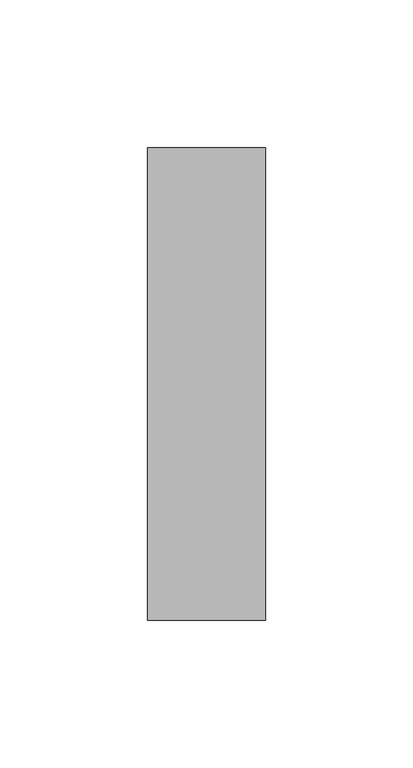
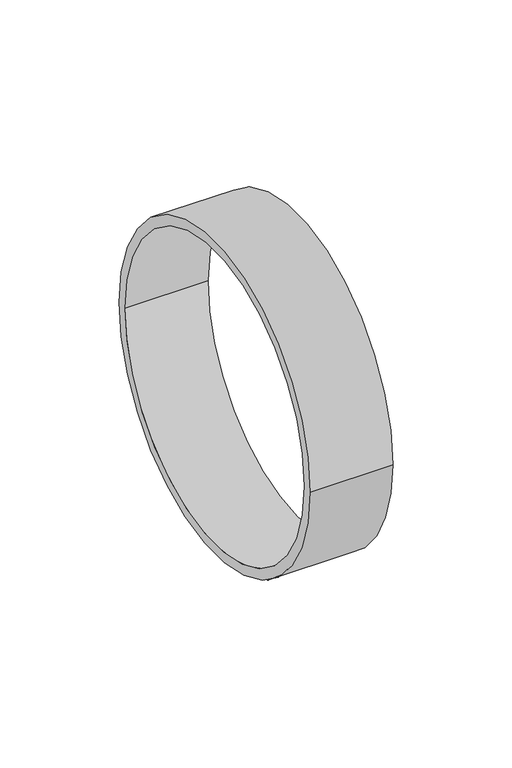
"""IFC4 building model written with IfcOpenShell, lengths in millimetres: duct fitting geometry, HEATPEX - ARIA ADURO - Adapter króćca do rekuperatora : 150/160."""

from ifc_helpers import new_model, si_unit, point, frame, origin, origin_2d, place, context, project, spatial, circle_curve, trimmed, segment, composite_curve, outline, extrude, source, transform, mapped, element, save


def duct_fitting_98ac1955(model_context):
    return source(origin(), model_context, "Body", "SweptSolid", [
        extrude(outline(composite_curve([segment(trimmed(circle_curve(origin_2d(), 80.0), [point((-80.0, 0.0))], [point((80.0, 0.0))], False, "CARTESIAN"), True, "CONTINUOUS"), segment(trimmed(circle_curve(origin_2d(), 80.0), [point((80.0, 0.0))], [point((-80.0, 0.0))], False, "CARTESIAN"), True, "CONTINUOUS")], self_intersect=False), holes=[composite_curve([segment(trimmed(circle_curve(origin_2d(), 75.0), [point((-75.0, 0.0))], [point((75.0, 0.0))], True, "CARTESIAN"), True, "CONTINUOUS"), segment(trimmed(circle_curve(origin_2d(), 75.0), [point((75.0, 0.0))], [point((-75.0, 0.0))], True, "CARTESIAN"), True, "CONTINUOUS")], self_intersect=False)]), frame((-20.0, 0.0, 0.0), z_axis=(1.0, 0.0, 0.0), x_axis=(0.0, 1.0, 0.0)), (0.0, 0.0, 1.0), 40.0),
    ])


if __name__ == "__main__":
    model = new_model("IFC4")
    model_context = context("Model", 3, world=origin())
    ifc_project = project(units=[si_unit("LENGTHUNIT", "METRE", prefix="MILLI")], contexts=[model_context])
    site = spatial("IfcSite", under=ifc_project)
    building = spatial("IfcBuilding", under=site)
    placement = place(None, origin())
    duct_fitting_shape = duct_fitting_98ac1955(model_context)
    element("IfcDuctFitting", 1, ObjectType="HEATPEX - ARIA ADURO - Adapter króćca do rekuperatora : 150/160", at=placement, inside=building, context=model_context, shape_type="MappedRepresentation", body=[
        mapped(duct_fitting_shape, transform((0.0, 0.0, 0.0), x_axis=(1.0, 0.0, 0.0), y_axis=(0.0, 1.0, 0.0), z_axis=(0.0, 0.0, 1.0))),
    ])
    save(model, "model.ifc")
